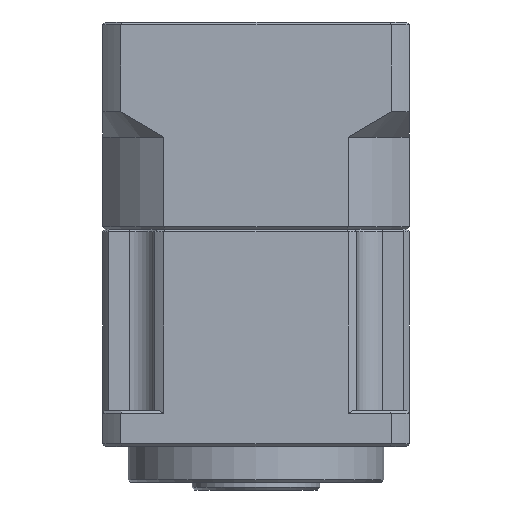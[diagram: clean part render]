
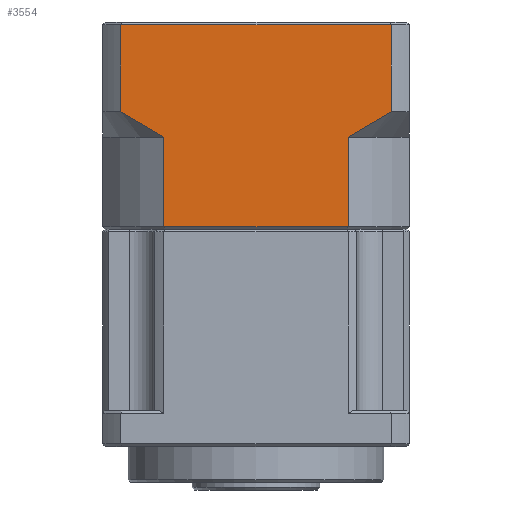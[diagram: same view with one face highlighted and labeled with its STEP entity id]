
A CAD part, front view. The second image highlights one B-rep face of the part: STEP entity #3554.
In plain terms, the highlighted planar face has unit normal (0, -1, 0).
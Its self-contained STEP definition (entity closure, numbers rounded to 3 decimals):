
#456 = DIRECTION ( 'NONE',  ( 0., 0., 1. ) ) ;
#869 = CARTESIAN_POINT ( 'NONE',  ( -57.004, -4.04, -14.295 ) ) ;
#2096 = VERTEX_POINT ( 'NONE', #869 ) ;
#2536 = VERTEX_POINT ( 'NONE', #5827 ) ;
#3554 = ADVANCED_FACE ( 'NONE', ( #38588 ), #17842, .T. ) ;
#4818 = EDGE_CURVE ( 'NONE', #2096, #77223, #84215, .T. ) ;
#5827 = CARTESIAN_POINT ( 'NONE',  ( -65.433, -4.04, 25.205 ) ) ;
#6449 = VERTEX_POINT ( 'NONE', #7742 ) ;
#7742 = CARTESIAN_POINT ( 'NONE',  ( -20.948, -4.04, 3.205 ) ) ;
#8052 = LINE ( 'NONE', #86218, #82464 ) ;
#8536 = LINE ( 'NONE', #87763, #55928 ) ;
#12541 = CARTESIAN_POINT ( 'NONE',  ( -58.458, -4.04, 3.954 ) ) ;
#12860 = VERTEX_POINT ( 'NONE', #21590 ) ;
#14717 = LINE ( 'NONE', #68709, #36188 ) ;
#15582 = LINE ( 'NONE', #85424, #89996 ) ;
#17842 = PLANE ( 'NONE',  #37518 ) ;
#19167 = CARTESIAN_POINT ( 'NONE',  ( -62.689, -4.04, 6.429 ) ) ;
#21590 = CARTESIAN_POINT ( 'NONE',  ( -12.518, -4.04, 8.205 ) ) ;
#21653 = DIRECTION ( 'NONE',  ( 0., 0., 1. ) ) ;
#22318 = CARTESIAN_POINT ( 'NONE',  ( -18.069, -4.04, 4.754 ) ) ;
#22750 = CARTESIAN_POINT ( 'NONE',  ( -20.948, -4.04, -34.021 ) ) ;
#23983 = EDGE_CURVE ( 'NONE', #27968, #12860, #15582, .T. ) ;
#25439 = CARTESIAN_POINT ( 'NONE',  ( -8.976, -4.04, -14.795 ) ) ;
#27467 = EDGE_CURVE ( 'NONE', #12860, #6449, #86085, .T. ) ;
#27668 = CARTESIAN_POINT ( 'NONE',  ( -64.069, -4.04, 7.303 ) ) ;
#27968 = VERTEX_POINT ( 'NONE', #78337 ) ;
#33217 = EDGE_CURVE ( 'NONE', #2536, #27968, #8536, .T. ) ;
#34277 = CARTESIAN_POINT ( 'NONE',  ( -59.883, -4.04, 4.754 ) ) ;
#35562 = ORIENTED_EDGE ( 'NONE', *, *, #79726, .F. ) ;
#35892 = CARTESIAN_POINT ( 'NONE',  ( -15.263, -4.04, 6.429 ) ) ;
#36188 = VECTOR ( 'NONE', #76309, 1000. ) ;
#37518 = AXIS2_PLACEMENT_3D ( 'NONE', #25439, #68235, #75841 ) ;
#38588 = FACE_OUTER_BOUND ( 'NONE', #79701, .T. ) ;
#41766 = VERTEX_POINT ( 'NONE', #49802 ) ;
#43007 = ORIENTED_EDGE ( 'NONE', *, *, #27467, .F. ) ;
#43403 = DIRECTION ( 'NONE',  ( 1., 0., 0. ) ) ;
#43407 = ORIENTED_EDGE ( 'NONE', *, *, #70157, .F. ) ;
#44597 = VECTOR ( 'NONE', #88249, 1000. ) ;
#46892 = LINE ( 'NONE', #22750, #44597 ) ;
#49802 = CARTESIAN_POINT ( 'NONE',  ( -65.433, -4.04, 8.205 ) ) ;
#55928 = VECTOR ( 'NONE', #43403, 1000. ) ;
#57619 = ORIENTED_EDGE ( 'NONE', *, *, #68274, .F. ) ;
#57707 = ORIENTED_EDGE ( 'NONE', *, *, #23983, .F. ) ;
#58049 = DIRECTION ( 'NONE',  ( 0., 0., -1. ) ) ;
#58308 = CARTESIAN_POINT ( 'NONE',  ( -57.004, -4.04, 3.205 ) ) ;
#62623 = ORIENTED_EDGE ( 'NONE', *, *, #92091, .F. ) ;
#64212 = CARTESIAN_POINT ( 'NONE',  ( -19.493, -4.04, 3.954 ) ) ;
#64988 = VECTOR ( 'NONE', #456, 1000. ) ;
#65423 = CARTESIAN_POINT ( 'NONE',  ( -13.882, -4.04, 7.303 ) ) ;
#65564 = CARTESIAN_POINT ( 'NONE',  ( -57.004, -4.04, -34.021 ) ) ;
#67040 = ORIENTED_EDGE ( 'NONE', *, *, #4818, .F. ) ;
#68235 = DIRECTION ( 'NONE',  ( 0., -1., 0. ) ) ;
#68274 = EDGE_CURVE ( 'NONE', #41766, #2536, #8052, .T. ) ;
#68709 = CARTESIAN_POINT ( 'NONE',  ( -8.976, -4.04, -14.295 ) ) ;
#70157 = EDGE_CURVE ( 'NONE', #6449, #81597, #46892, .T. ) ;
#71955 = ORIENTED_EDGE ( 'NONE', *, *, #33217, .F. ) ;
#75841 = DIRECTION ( 'NONE',  ( 0., 0., -1. ) ) ;
#76309 = DIRECTION ( 'NONE',  ( -1., 0., 0. ) ) ;
#77223 = VERTEX_POINT ( 'NONE', #58308 ) ;
#78337 = CARTESIAN_POINT ( 'NONE',  ( -12.518, -4.04, 25.205 ) ) ;
#79701 = EDGE_LOOP ( 'NONE', ( #57707, #71955, #57619, #35562, #67040, #62623, #43407, #43007 ) ) ;
#79726 = EDGE_CURVE ( 'NONE', #77223, #41766, #87705, .T. ) ;
#81597 = VERTEX_POINT ( 'NONE', #89052 ) ;
#82464 = VECTOR ( 'NONE', #21653, 1000. ) ;
#84215 = LINE ( 'NONE', #65564, #64988 ) ;
#84672 = CARTESIAN_POINT ( 'NONE',  ( -65.433, -4.04, 8.205 ) ) ;
#85424 = CARTESIAN_POINT ( 'NONE',  ( -12.518, -4.04, -34.021 ) ) ;
#86085 = B_SPLINE_CURVE_WITH_KNOTS ( 'NONE', 3,
 ( #86589, #65423, #35892, #22318, #64212, #92899 ),
 .UNSPECIFIED., .F., .F.,
 ( 4, 2, 4 ),
 ( 0., 0.005, 0.01 ),
 .UNSPECIFIED. ) ;
#86218 = CARTESIAN_POINT ( 'NONE',  ( -65.433, -4.04, -34.021 ) ) ;
#86589 = CARTESIAN_POINT ( 'NONE',  ( -12.518, -4.04, 8.205 ) ) ;
#87705 = B_SPLINE_CURVE_WITH_KNOTS ( 'NONE', 3,
 ( #91602, #12541, #34277, #19167, #27668, #84672 ),
 .UNSPECIFIED., .F., .F.,
 ( 4, 2, 4 ),
 ( 0., 0.005, 0.01 ),
 .UNSPECIFIED. ) ;
#87763 = CARTESIAN_POINT ( 'NONE',  ( -8.976, -4.04, 25.205 ) ) ;
#88249 = DIRECTION ( 'NONE',  ( 0., 0., -1. ) ) ;
#89052 = CARTESIAN_POINT ( 'NONE',  ( -20.948, -4.04, -14.295 ) ) ;
#89996 = VECTOR ( 'NONE', #58049, 1000. ) ;
#91602 = CARTESIAN_POINT ( 'NONE',  ( -57.004, -4.04, 3.205 ) ) ;
#92091 = EDGE_CURVE ( 'NONE', #81597, #2096, #14717, .T. ) ;
#92899 = CARTESIAN_POINT ( 'NONE',  ( -20.948, -4.04, 3.205 ) ) ;
